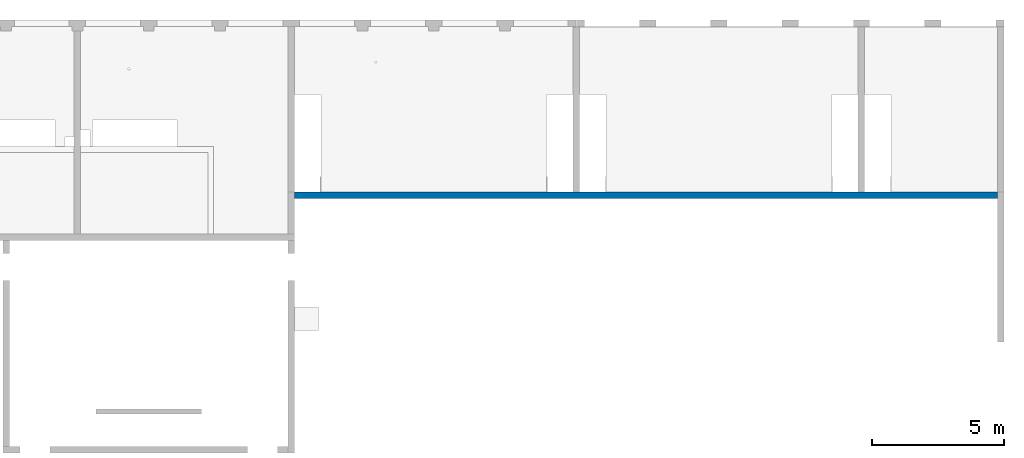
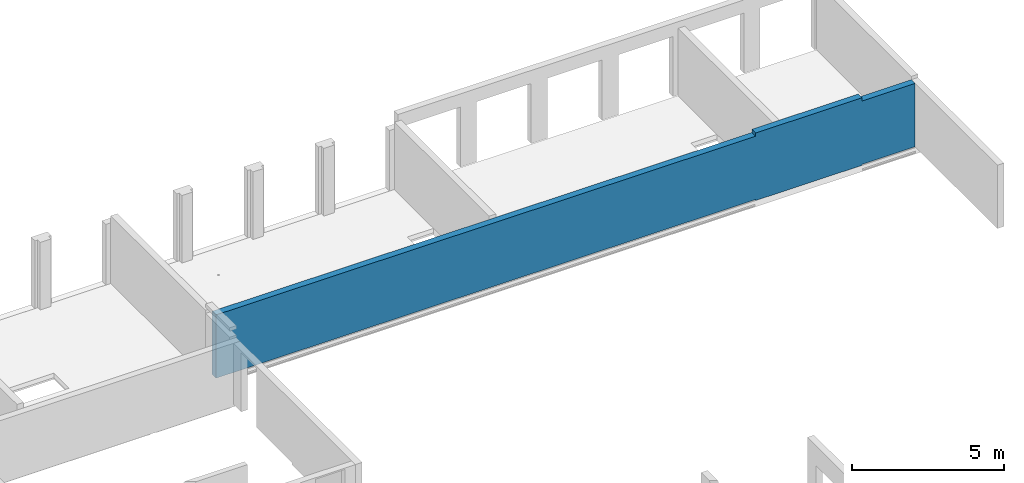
# One storey, part 12 of 12: 1 wall.
"""IFC2X3 building model written with IfcOpenShell, lengths in millimetres."""

from ifc_helpers import new_model, entity, si_unit, converted_unit, derived_unit, direction, frame, origin, place, context, subcontext, project, spatial, faceted_brep, material, layer, layer_set, type_object, element, save


model = new_model("IFC2X3")

# Units and contexts
model_context = context("Model", 3, precision=0.01, world=origin(), true_north=direction((6.12303176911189e-17, 1.0)))
body_context = subcontext(model_context, "Body", "Model", "MODEL_VIEW")
ifc_project = project(units=[si_unit("LENGTHUNIT", "METRE", prefix="MILLI"), si_unit("AREAUNIT", "SQUARE_METRE"), si_unit("VOLUMEUNIT", "CUBIC_METRE"), converted_unit("PLANEANGLEUNIT", "DEGREE", entity("IfcRatioMeasure", 0.0174532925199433), si_unit("PLANEANGLEUNIT", "RADIAN"), dimensions=[0, 0, 0, 0, 0, 0, 0]), si_unit("MASSUNIT", "GRAM", prefix="KILO"), derived_unit("MASSDENSITYUNIT", [(si_unit("MASSUNIT", "GRAM", prefix="KILO"), 1), (si_unit("LENGTHUNIT", "METRE"), -3)]), si_unit("TIMEUNIT", "SECOND"), si_unit("FREQUENCYUNIT", "HERTZ"), si_unit("THERMODYNAMICTEMPERATUREUNIT", "DEGREE_CELSIUS"), derived_unit("THERMALTRANSMITTANCEUNIT", [(si_unit("MASSUNIT", "GRAM", prefix="KILO"), 1), (si_unit("THERMODYNAMICTEMPERATUREUNIT", "KELVIN"), -1), (si_unit("TIMEUNIT", "SECOND"), -3)]), derived_unit("VOLUMETRICFLOWRATEUNIT", [(si_unit("LENGTHUNIT", "METRE"), 3), (si_unit("TIMEUNIT", "SECOND"), -1)]), si_unit("ELECTRICCURRENTUNIT", "AMPERE"), si_unit("ELECTRICVOLTAGEUNIT", "VOLT"), si_unit("POWERUNIT", "WATT"), si_unit("FORCEUNIT", "NEWTON", prefix="KILO"), si_unit("ILLUMINANCEUNIT", "LUX"), si_unit("LUMINOUSFLUXUNIT", "LUMEN"), si_unit("LUMINOUSINTENSITYUNIT", "CANDELA"), derived_unit("USERDEFINED", [(si_unit("MASSUNIT", "GRAM", prefix="KILO"), -1), (si_unit("LENGTHUNIT", "METRE"), -2), (si_unit("TIMEUNIT", "SECOND"), 3), (si_unit("LUMINOUSFLUXUNIT", "LUMEN"), 1)]), derived_unit("LINEARVELOCITYUNIT", [(si_unit("LENGTHUNIT", "METRE"), 1), (si_unit("TIMEUNIT", "SECOND"), -1)]), si_unit("PRESSUREUNIT", "PASCAL"), derived_unit("USERDEFINED", [(si_unit("LENGTHUNIT", "METRE"), -2), (si_unit("MASSUNIT", "GRAM", prefix="KILO"), 1), (si_unit("TIMEUNIT", "SECOND"), -2)])], contexts=[model_context])

# Site, building, storey
site_placement = place(None, origin())
site = spatial("IfcSite", under=ifc_project, at=site_placement, Name="Default", CompositionType="ELEMENT")
building_placement = place(site_placement, origin())
building = spatial("IfcBuilding", under=site, at=building_placement, Name="niet gebruiken", CompositionType="ELEMENT")
storey_placement = place(building_placement, frame((0.0, 0.0, 6660.0)))
storey = spatial("IfcBuildingStorey", under=building, at=storey_placement, Name="02 tweede verdieping", CompositionType="ELEMENT", Elevation=6660.00000000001)

# Wall
ifc_material = material(Name="NLRS_f2_beton ihwg")
ifc_layer = layer(ifc_material, 250.0)
ifc_layer_set = layer_set([ifc_layer], Name="Basic Wall:NLRS_22.21_WA_beton ihwg d=250_gen")
wall_type = type_object("IfcWallType", Name="Basic Wall:NLRS_22.21_WA_beton ihwg d=250_gen", PredefinedType="STANDARD", material=ifc_layer_set)
wall_placement = place(storey_placement, frame((123950.0, 46621.0, -90.0), z_axis=(0.0, 0.0, 1.0), x_axis=(-1.0, 0.0, 0.0)))
element("IfcWall", 1, at=wall_placement, inside=storey, type_object=wall_type, Name="Basic Wall:NLRS_22.21_WA_beton ihwg d=250_gen", ObjectType="Basic Wall:NLRS_22.21_WA_beton ihwg d=250_gen", context=body_context, shape_type="Brep", body=[
    faceted_brep([(6070.0, -125.0, 2720.0), (5275.0, -125.0, 2720.0), (5025.0, -125.0, 2720.0), (4055.0, -125.0, 2720.0), (2020.0, -125.0, 2720.0), (2020.0, -125.0, 2590.0), (0.0, -125.0, 2590.0), (0.0, -125.0, 40.0), (710.0, -125.0, 40.0), (710.0, -125.0, 890.0), (910.0, -125.0, 890.0), (910.0, -125.0, 40.0), (2020.0, -125.0, 40.0), (2020.0, -125.0, 0.0), (4055.0, -125.0, 0.0), (5025.0, -125.0, 0.0), (5275.0, -125.0, 0.0), (6070.0, -125.0, 0.0), (6070.0, -125.0, 40.0), (9415.0, -125.0, 40.0), (9415.0, -125.0, 890.0), (9615.0, -125.0, 890.0), (9615.0, -125.0, 40.0), (11485.0, -125.0, 40.0), (11485.0, -125.0, 890.0), (11685.0, -125.0, 890.0), (11685.0, -125.0, 40.0), (20215.0, -125.0, 40.0), (20215.0, -125.0, 890.0), (20415.0, -125.0, 890.0), (20415.0, -125.0, 40.0), (22285.0, -125.0, 40.0), (22285.0, -125.0, 890.0), (22485.0, -125.0, 890.0), (22485.0, -125.0, 40.0), (26625.0, -125.0, 40.0), (26625.0, -125.0, 2590.0), (6070.0, -125.0, 2590.0), (2020.0, 125.0, 2720.0), (6070.0, 125.0, 2720.0), (6070.0, 125.0, 2590.0), (26625.0, 125.0, 2590.0), (26625.0, 125.0, 40.0), (6070.0, 125.0, 40.0), (6070.0, 125.0, 0.0), (2020.0, 125.0, 0.0), (2020.0, 125.0, 40.0), (0.0, 125.0, 40.0), (0.0, 125.0, 2590.0), (2020.0, 125.0, 2590.0), (2020.0, -105.0, 2720.0), (22485.0, -85.0, 40.0), (22285.0, -85.0, 40.0), (20415.0, -85.0, 40.0), (20215.0, -85.0, 40.0), (11685.0, -85.0, 40.0), (11485.0, -85.0, 40.0), (9615.0, -85.0, 40.0), (9415.0, -85.0, 40.0), (710.0, -85.0, 890.0), (910.0, -85.0, 890.0), (910.0, -85.0, 40.0), (710.0, -85.0, 40.0), (9415.0, -85.0, 890.0), (9615.0, -85.0, 890.0), (11485.0, -85.0, 890.0), (11685.0, -85.0, 890.0), (20215.0, -85.0, 890.0), (20415.0, -85.0, 890.0), (22285.0, -85.0, 890.0), (22485.0, -85.0, 890.0)], [[[0, 1, 2, 3, 4, 5, 6, 7, 8, 9, 10, 11, 12, 13, 14, 15, 16, 17, 18, 19, 20, 21, 22, 23, 24, 25, 26, 27, 28, 29, 30, 31, 32, 33, 34, 35, 36, 37]], [[38, 39, 40, 41, 42, 43, 44, 45, 46, 47, 48, 49]], [[17, 16, 15, 14, 13, 45, 44]], [[41, 36, 35, 42]], [[4, 3, 2, 1, 0, 39, 38, 50]], [[6, 48, 47, 7]], [[5, 49, 48, 6]], [[49, 5, 4, 50, 38]], [[37, 40, 39, 0]], [[18, 43, 42, 35, 34, 51, 52, 31, 30, 53, 54, 27, 26, 55, 56, 23, 22, 57, 58, 19]], [[12, 46, 45, 13]], [[43, 18, 17, 44]], [[9, 59, 60, 10]], [[10, 60, 61, 11]], [[60, 59, 62, 61]], [[59, 9, 8, 62]], [[20, 63, 64, 21]], [[21, 64, 57, 22]], [[64, 63, 58, 57]], [[63, 20, 19, 58]], [[24, 65, 66, 25]], [[25, 66, 55, 26]], [[66, 65, 56, 55]], [[65, 24, 23, 56]], [[28, 67, 68, 29]], [[29, 68, 53, 30]], [[68, 67, 54, 53]], [[67, 28, 27, 54]], [[32, 69, 70, 33]], [[33, 70, 51, 34]], [[70, 69, 52, 51]], [[69, 32, 31, 52]], [[46, 12, 11, 61, 62, 8, 7, 47]], [[40, 37, 36, 41]]]),
])

save(model, "model.ifc")
